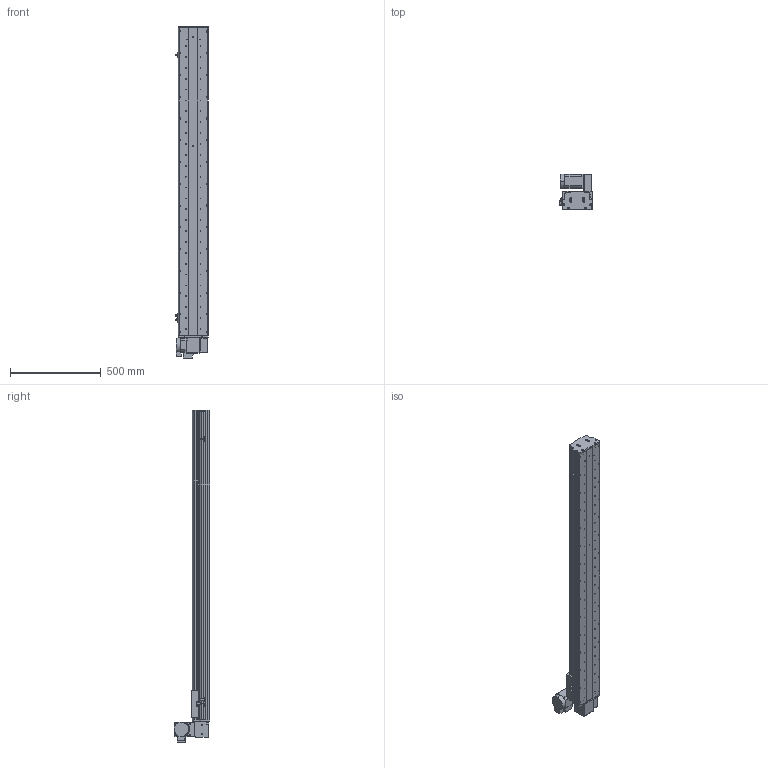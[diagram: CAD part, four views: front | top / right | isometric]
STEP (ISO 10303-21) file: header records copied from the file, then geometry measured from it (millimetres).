
FILE_DESCRIPTION (( 'STEP AP214' ), '1' );
FILE_NAME ('KSD165B-S1450-MRU-CM.STEP', '2017-10-17T02:49:59', ( '微软用户' ), ( '微软中国' ), 'SwSTEP 2.0', 'SolidWorks 2014', '' );
FILE_SCHEMA (( 'AUTOMOTIVE_DESIGN' ));
Length unit declared in the file: millimetre
Products named in the file (17): 130宽模组保护罩上下左右折-同步带; HTPA26S5M250-A-H8 750W萇儂蚚; HTPA26S5M250-A-H8 400W萇儂蚚 ; KSD165模组-同步带防尘盖1-1450行程; KSD165模组同步带底板-1450行程; 拸秶雄ん750W侜督萇儂; 165宽马达安装板同步带右; U倰嫖萇假蚾璃; U倰嫖萇EEㄜSX672; 覜茼え68遵圉猾敕; KSD165模组-同步带-防撞垫2; KSD165模组同步带-防撞垫1; KSD165耀郪-ヶ傷啣1-肮祭湍; KSD165模组-后端板1-同步带; KSD165模组-同步带滑动座-最新版; KSD165B-S1450-MRU-CM; 130宽模组马达安装板连板上下折丝杆同步带
Assembly tree (20 placements, depth 2):
  KSD165B-S1450-MRU-CM
    KSD165模组-同步带滑动座-最新版
    KSD165模组-后端板1-同步带
    KSD165耀郪-ヶ傷啣1-肮祭湍
    KSD165模组同步带-防撞垫1
    KSD165模组-同步带-防撞垫2
    覜茼え68遵圉猾敕
    U倰嫖萇EEㄜSX672  x3
    U倰嫖萇假蚾璃  x3
    165宽马达安装板同步带右
    拸秶雄ん750W侜督萇儂
    KSD165模组同步带底板-1450行程
    KSD165模组-同步带防尘盖1-1450行程
    HTPA26S5M250-A-H8 400W萇儂蚚 
    HTPA26S5M250-A-H8 750W萇儂蚚
    130宽模组保护罩上下左右折-同步带
    130宽模组马达安装板连板上下折丝杆同步带
Bounding box: 178.7 x 198 x 1830.5 mm (x, y, z)
Volume: 9945762.6 mm3; surface area: 2319584.4 mm2
Topology: 21 solids, 21 shells, 2043 faces, 5784 edges, 3780 vertices
Faces by surface type: cylinder 1335, plane 596, cone 112
Entity records: 67140 total; most frequent: CARTESIAN_POINT 13780, DIRECTION 10964, ORIENTED_EDGE 10228, EDGE_CURVE 5114, AXIS2_PLACEMENT_3D 4314, VERTEX_POINT 3372, CIRCLE 2468, VECTOR 2336
